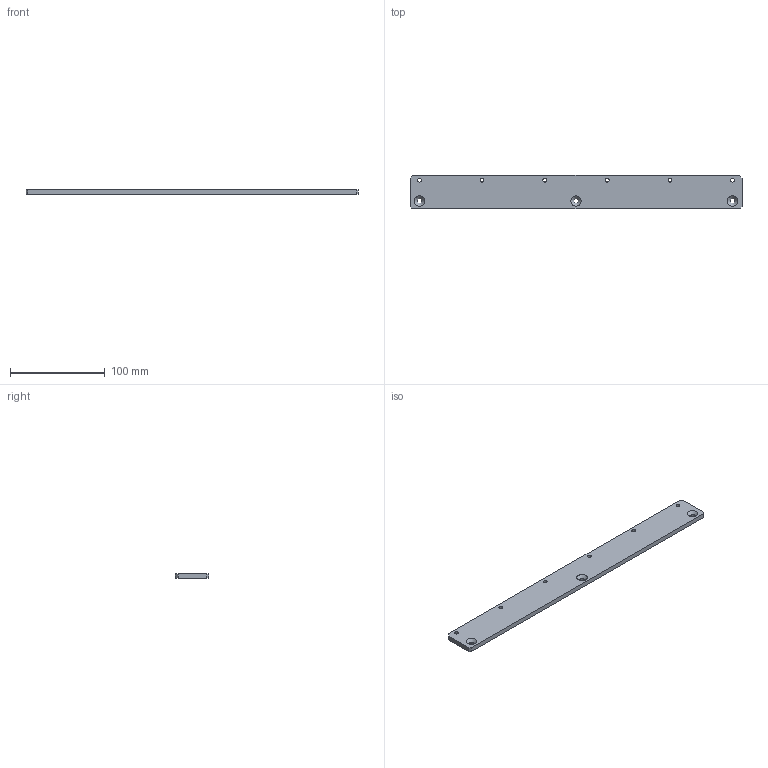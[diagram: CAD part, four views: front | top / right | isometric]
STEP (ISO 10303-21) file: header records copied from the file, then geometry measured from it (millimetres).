
FILE_DESCRIPTION(/* description */ (''),/* implementation_level */ '2;1');
FILE_NAME(/* name */ 'C:/#Projekte/Linear-Motor/STEP/steel_plate_bottom.step',/* time_stamp */ '2019-01-06T11:27:11+01:00',/* author */ (''),/* organization */ (''),/* preprocessor_version */ 'ST-DEVELOPER v17.2',/* originating_system */ 'Autodesk Translation Framework v7.6.0.251',/* authorisation */ '');
FILE_SCHEMA (('AUTOMOTIVE_DESIGN { 1 0 10303 214 3 1 1 }'));
Length unit declared in the file: millimetre
Products named in the file (1): Unterer Magnethalter
Bounding box: 350 x 35 x 5 mm (x, y, z)
Volume: 60216.6 mm3; surface area: 28591 mm2
Topology: 1 solids, 1 shells, 22 faces, 57 edges, 37 vertices
Faces by surface type: plane 10, cylinder 9, cone 3
Full cylindrical faces by diameter (mm): 4 x6, 5 x3
Entity records: 754 total; most frequent: DIRECTION 124, CARTESIAN_POINT 117, ORIENTED_EDGE 114, EDGE_CURVE 57, AXIS2_PLACEMENT_3D 44, EDGE_LOOP 40, VERTEX_POINT 37, LINE 36
